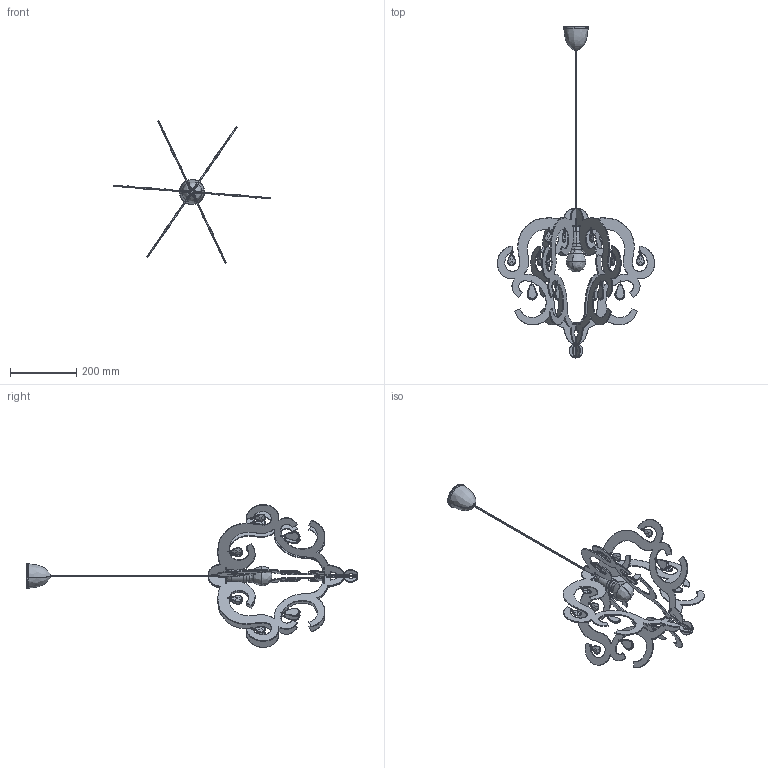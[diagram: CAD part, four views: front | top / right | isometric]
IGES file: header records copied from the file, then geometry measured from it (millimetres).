
Start section: SolidWorks IGES file using analytic representation for surfaces
Global section: file name: E:\3D lampy\Katerina\Katerina_5210,5211.IGS; native system: SolidWorks 2017; preprocessor: SolidWorks 2017; author: Asia; date: 171025.103943; units: millimetre
Bounding box: 475.7 x 1004.55 x 431.93 mm (x, y, z)
Surface area: 488363.8 mm2 (no closed solid volume)
Topology: 0 solids, 0 shells, 1649 faces, 20513 edges, 20445 vertices
Faces by surface type: revolution 829, bspline 820
